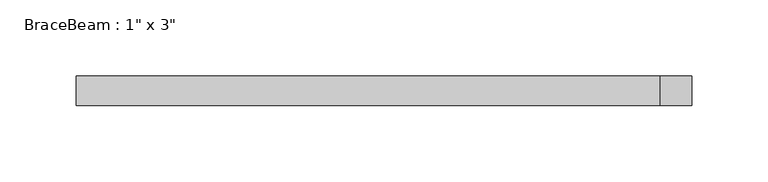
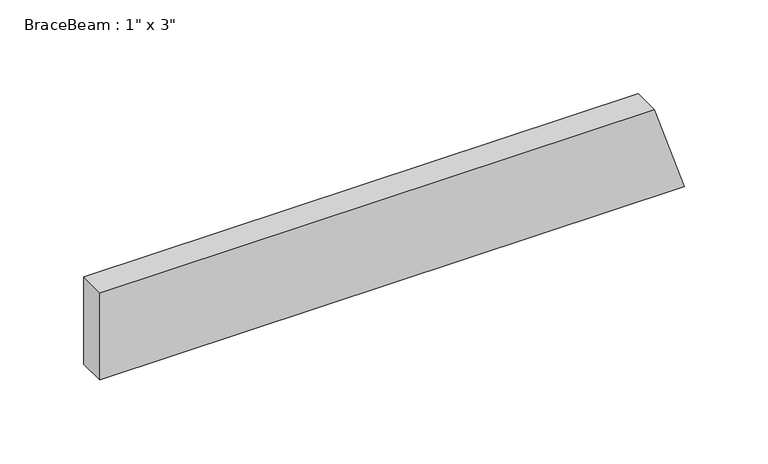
"""IFC4 building model written with IfcOpenShell, lengths in millimetres: beam geometry."""

from ifc_helpers import new_model, si_unit, origin, place, context, project, spatial, faceted_brep, source, transform, mapped, element, save


def beam_a3a851c1(model_context):
    return source(origin(), model_context, "Body", "Brep", [
        faceted_brep([(-196.744461, -9.525, -31.75), (-196.744461, 9.525, -31.75), (205.4589385, 9.525, -31.75), (205.4589385, -9.525, -31.75), (-196.744461, 9.525, 31.75), (184.7332441, 9.525, 31.75), (195.0960913, 9.525, 0.0), (-196.744461, -9.525, 31.75), (184.7332441, -9.525, 31.75), (195.0960913, -9.525, 0.0)], [[[0, 1, 2, 3]], [[1, 4, 5, 6, 2]], [[4, 7, 8, 5]], [[7, 0, 3, 9, 8]], [[7, 4, 1, 0]], [[5, 8, 9, 3, 2, 6]]]),
    ])


if __name__ == "__main__":
    model = new_model("IFC4")
    model_context = context("Model", 3, world=origin())
    ifc_project = project(units=[si_unit("LENGTHUNIT", "METRE", prefix="MILLI")], contexts=[model_context])
    site = spatial("IfcSite", under=ifc_project)
    building = spatial("IfcBuilding", under=site)
    placement = place(None, origin())
    beam_shape = beam_a3a851c1(model_context)
    element("IfcBeam", 1, ObjectType="BraceBeam : 1\" x 3\"", at=placement, inside=building, context=model_context, shape_type="MappedRepresentation", body=[
        mapped(beam_shape, transform((0.0, 0.0, 0.0), x_axis=(1.0, 0.0, 0.0), y_axis=(0.0, 1.0, 0.0), z_axis=(0.0, 0.0, 1.0))),
    ])
    save(model, "model.ifc")
